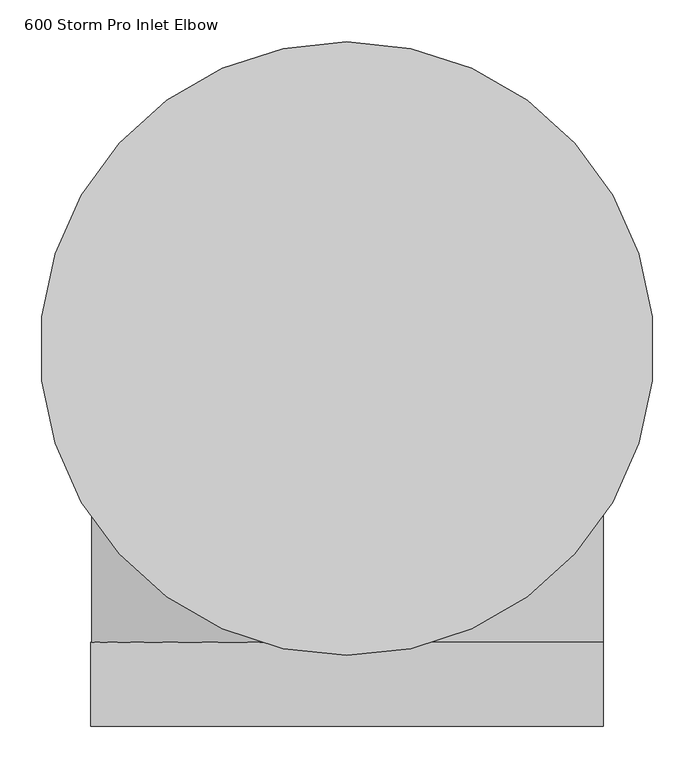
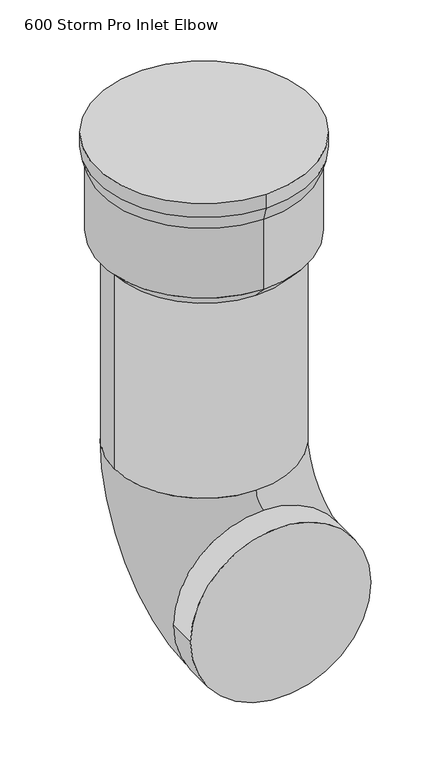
"""IFC4 building model written with IfcOpenShell, lengths in millimetres: proxy geometry, 600 Storm Pro Inlet Elbow."""

from ifc_helpers import new_model, si_unit, point, frame, origin, place, context, project, spatial, polyline, circle_curve, ellipse_curve, trimmed, source, transform, mapped, element, save
from ifc_brep_helpers import plane_surface, cylinder_surface, revolved_surface, advanced_brep


def proxy_600_storm_pro_inlet_elbow_25fc55d9(model_context):
    return source(origin(), model_context, "Body", "AdvancedBrep", [
        advanced_brep(
        [(306.0, 0.0, 50.0), (306.0, 0.0, -650.0), (0.0, 306.0, -650.0), (-306.0, 0.0, -650.0), (-306.0, 0.0, 50.0), (0.0, 306.0, 50.0), (0.0, -350.0, -1306.0), (-306.0, -350.0, -1000.0), (0.0, -350.0, -694.0), (0.0, -306.0, -650.0), (306.0, -350.0, -1000.0), (306.0, -450.0, -1000.0), (-306.0, -450.0, -1000.0), (0.0, 351.0, 100.0), (0.0, -351.0, 100.0), (0.0, -306.0, 50.0), (0.0, 366.0, 400.0), (0.0, 366.0, 450.0), (0.0, -366.0, 450.0), (0.0, -366.0, 400.0), (0.0, 351.0, 350.0), (0.0, -351.0, 350.0)],
        [
            (0, 1),
            (1, 2, circle_curve(frame((0.0, 0.0, -650.0), z_axis=(0.0, 0.0, 1.0), x_axis=(1.0, 0.0, 0.0)), 306.0)),
            (2, 3, circle_curve(frame((0.0, 0.0, -650.0), z_axis=(0.0, 0.0, 1.0), x_axis=(1.0, 0.0, 0.0)), 306.0)),
            (3, 4),
            (4, 5, circle_curve(frame((0.0, 0.0, 50.0), z_axis=(0.0, 0.0, -1.0), x_axis=(1.0, 0.0, 0.0)), 306.0)),
            (5, 0, circle_curve(frame((0.0, 0.0, 50.0), z_axis=(0.0, 0.0, -1.0), x_axis=(1.0, 0.0, 0.0)), 306.0)),
            (2, 6, circle_curve(frame((0.0, -350.0, -650.0), z_axis=(-1.0, 0.0, 0.0), x_axis=(0.0, 1.0, 0.0)), 656.0)),
            (6, 7, circle_curve(frame((0.0, -350.0, -1000.0), z_axis=(0.0, 1.0, 0.0), x_axis=(0.0, 0.0, -1.0)), 306.0)),
            (7, 8, circle_curve(frame((0.0, -350.0, -1000.0), z_axis=(0.0, 1.0, 0.0), x_axis=(0.0, 0.0, -1.0)), 306.0)),
            (8, 9, circle_curve(frame((0.0, -350.0, -650.0), z_axis=(1.0, 0.0, 0.0), x_axis=(0.0, 1.0, 0.0)), 44.0)),
            (9, 3, circle_curve(frame((0.0, 0.0, -650.0), z_axis=(0.0, 0.0, -1.0), x_axis=(0.0, 1.0, 0.0)), 306.0)),
            (10, 11),
            (11, 12, circle_curve(frame((0.0, -450.0, -1000.0), z_axis=(0.0, 1.0, 0.0), x_axis=(1.0, 0.0, 0.0)), 306.0)),
            (12, 7),
            (6, 10, circle_curve(frame((0.0, -350.0, -1000.0), z_axis=(0.0, -1.0, 0.0), x_axis=(1.0, 0.0, 0.0)), 306.0)),
            (5, 13),
            (13, 14, circle_curve(frame((0.0, 0.0, 100.0), z_axis=(0.0, 0.0, -1.0), x_axis=(0.0, -1.0, 0.0)), 351.0)),
            (14, 15),
            (15, 0, circle_curve(frame((0.0, 0.0, 50.0), z_axis=(0.0, 0.0, 1.0), x_axis=(0.0, -1.0, 0.0)), 306.0)),
            (16, 17),
            (17, 18, circle_curve(frame((0.0, 0.0, 450.0), z_axis=(0.0, 0.0, -1.0), x_axis=(0.0, 1.0, 0.0)), 366.0)),
            (18, 19),
            (19, 16, circle_curve(frame((0.0, 0.0, 400.0), z_axis=(0.0, 0.0, 1.0), x_axis=(0.0, 1.0, 0.0)), 366.0)),
            (20, 16),
            (19, 21),
            (21, 20, circle_curve(frame((0.0, 0.0, 350.0), z_axis=(0.0, 0.0, 1.0), x_axis=(0.0, -1.0, 0.0)), 351.0)),
            (13, 20),
            (21, 14),
            (17, 18, circle_curve(frame((0.0, 0.0, 450.0), z_axis=(0.0, 0.0, 1.0), x_axis=(0.0, 1.0, 0.0)), 366.0)),
            (11, 12, circle_curve(frame((0.0, -450.0, -1000.0), z_axis=(0.0, -1.0, 0.0), x_axis=(1.0, 0.0, 0.0)), 306.0)),
            (13, 14, circle_curve(frame((0.0, 0.0, 100.0), z_axis=(0.0, 0.0, 1.0), x_axis=(0.0, 1.0, 0.0)), 351.0)),
            (21, 20, circle_curve(frame((0.0, 0.0, 350.0), z_axis=(0.0, 0.0, -1.0), x_axis=(0.0, 1.0, 0.0)), 351.0)),
            (19, 16, circle_curve(frame((0.0, 0.0, 400.0), z_axis=(0.0, 0.0, -1.0), x_axis=(0.0, 1.0, 0.0)), 366.0)),
            (4, 15, circle_curve(frame((0.0, 0.0, 50.0), z_axis=(0.0, 0.0, 1.0), x_axis=(0.0, 1.0, 0.0)), 306.0)),
            (10, 8, circle_curve(frame((0.0, -350.0, -1000.0), z_axis=(0.0, -1.0, 0.0), x_axis=(1.0, 0.0, 0.0)), 306.0)),
            (1, 9, circle_curve(frame((0.0, 0.0, -650.0), z_axis=(0.0, 0.0, -1.0), x_axis=(0.0, 1.0, 0.0)), 306.0)),
        ],
        [
            cylinder_surface(frame((0.0, 0.0, 0.0), z_axis=(0.0, 0.0, -1.0), x_axis=(1.0, 0.0, 0.0)), 306.0),
            revolved_surface(trimmed(ellipse_curve(frame((0.0, 0.0, -650.0), z_axis=(0.0, 0.0, 1.0), x_axis=(0.0, 1.0, 0.0)), 306.0, 306.0), [point((0.0, 306.0, -650.0))], [point((0.0, -306.0, -650.0))], True, "CARTESIAN"), (0.0, -350.0, -650.0), (-1.0, 0.0, 0.0)),
            cylinder_surface(frame((0.0, -350.0, -1000.0), z_axis=(0.0, -1.0, 0.0), x_axis=(1.0, 0.0, 0.0)), 306.0),
            revolved_surface(polyline([(0.0, 306.0, 50.0), (0.0, 351.0, 100.0)]), (0.0, 0.0, -290.0), (0.0, 0.0, 1.0)),
            cylinder_surface(frame((0.0, 0.0, 425.0), z_axis=(0.0, 0.0, 1.0), x_axis=(0.0, 1.0, 0.0)), 366.0),
            revolved_surface(polyline([(0.0, 351.0, 350.0), (0.0, 366.0, 400.0)]), (0.0, 0.0, -820.0), (0.0, 0.0, 1.0)),
            cylinder_surface(frame((0.0, 0.0, 225.0), z_axis=(0.0, 0.0, 1.0), x_axis=(0.0, 1.0, 0.0)), 351.0),
            plane_surface(frame((0.0, 360.0, 450.0), z_axis=(0.0, 0.0, 1.0), x_axis=(1.0, 0.0, 0.0))),
            plane_surface(frame((0.0, -450.0, -1000.0), z_axis=(0.0, -1.0, 0.0), x_axis=(1.0, 0.0, 0.0))),
            revolved_surface(trimmed(ellipse_curve(frame((0.0, 0.0, -650.0), z_axis=(0.0, 0.0, 1.0), x_axis=(0.0, 1.0, 0.0)), 306.0, 306.0), [point((0.0, -306.0, -650.0))], [point((0.0, 306.0, -650.0))], True, "CARTESIAN"), (0.0, -350.0, -650.0), (-1.0, 0.0, 0.0)),
        ],
        [
            (0, [[1, 2, 3, 4, 5, 6]]),
            (1, [[7, 8, 9, 10, 11, -3]]),
            (2, [[12, 13, 14, -8, 15]]),
            (3, [[16, 17, 18, 19, -6]]),
            (4, [[20, 21, 22, 23]]),
            (5, [[24, -23, 25, 26]]),
            (6, [[27, -26, 28, -17]]),
            (7, [[29, -21]]),
            (8, [[30, -13]]),
            (6, [[-27, 31, -28, 32]]),
            (5, [[-24, -32, -25, 33]]),
            (4, [[-20, -33, -22, -29]]),
            (3, [[-16, -5, 34, -18, -31]]),
            (2, [[-12, 35, -9, -14, -30]]),
            (9, [[-7, -2, 36, -10, -35, -15]]),
            (0, [[-1, -19, -34, -4, -11, -36]]),
        ],
    ),
    ])


if __name__ == "__main__":
    model = new_model("IFC4")
    model_context = context("Model", 3, world=origin())
    ifc_project = project(units=[si_unit("LENGTHUNIT", "METRE", prefix="MILLI")], contexts=[model_context])
    site = spatial("IfcSite", under=ifc_project)
    building = spatial("IfcBuilding", under=site)
    placement = place(None, origin())
    proxy_600_storm_pro_inlet_elbow_shape = proxy_600_storm_pro_inlet_elbow_25fc55d9(model_context)
    element("IfcBuildingElementProxy", 1, Name="600 Storm Pro Inlet Elbow", ObjectType="600 Storm Pro Inlet Elbow", at=placement, inside=building, context=model_context, shape_type="MappedRepresentation", body=[
        mapped(proxy_600_storm_pro_inlet_elbow_shape, transform((0.0, 0.0, 0.0), x_axis=(1.0, 0.0, 0.0), y_axis=(0.0, 1.0, 0.0), z_axis=(0.0, 0.0, 1.0))),
    ])
    save(model, "model.ifc")
